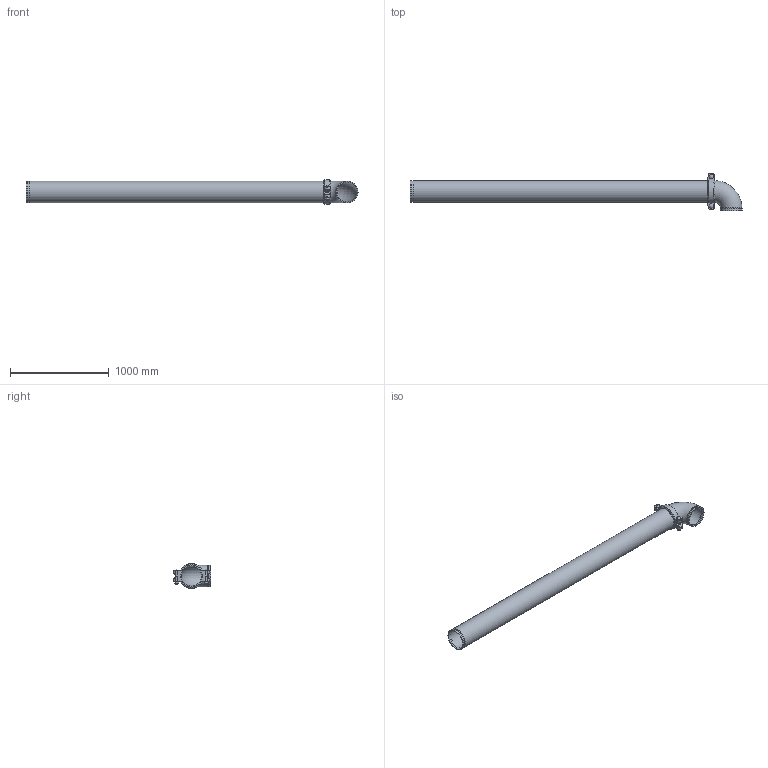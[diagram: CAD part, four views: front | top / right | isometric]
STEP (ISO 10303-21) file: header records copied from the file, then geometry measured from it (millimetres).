
FILE_DESCRIPTION(/* description */ ('VIC LONG RUN FITTING No R23 (OGS)','CAx-IF Rec.Pracs.---Representation and Presentation of Product Manufacturing Information (PMI)---4.0---2014-10-13'),/* implementation_level */ '2;1');
FILE_NAME(/* name */ 'C:\Users\Vjadhav\AppData\Roaming\Autodesk\ApplicationPlugins\Back Up\Victaulic_IPS_Long Run Fittings_No R23 (OGS)\Victaulic_IPS_Long Run Fittings_No R23 (OGS)_8 (200).stp',/* time_stamp */ '2020-10-06T20:02:07+06:00',/* author */ ('Vjadhav'),/* organization */ ('Victaulic'),/* preprocessor_version */ 'ST-DEVELOPER v17.2',/* originating_system */ 'Autodesk Inventor 2019',/* authorisation */ '');
FILE_SCHEMA (('AP242_MANAGED_MODEL_BASED_3D_ENGINEERING_MIM_LF { 1 0 10303 442 1 1 4 }'));
Length unit declared in the file: inch
Products named in the file (4): R23-08.0; 010-08.0; 177N-08.0; Pipe_R13-08.0
Assembly tree (3 placements, depth 2):
  R23-08.0
    010-08.0
    177N-08.0
    Pipe_R13-08.0
Bounding box: 3364.04 x 381.23 x 253.04 mm (x, y, z)
Volume: 19730056.1 mm3; surface area: 4701460.3 mm2
Topology: 3 solids, 3 shells, 117 faces, 313 edges, 210 vertices
Faces by surface type: plane 68, cylinder 37, torus 6, cone 4, sphere 2
Full cylindrical faces by diameter (mm): 22.225 x2, 42.85 x2, 202.717 x3, 206.375 x1, 214.401 x4, 219.075 x7
Entity records: 4336 total; most frequent: CARTESIAN_POINT 983, DIRECTION 673, ORIENTED_EDGE 634, EDGE_CURVE 317, AXIS2_PLACEMENT_3D 252, VERTEX_POINT 210, LINE 169, VECTOR 169
